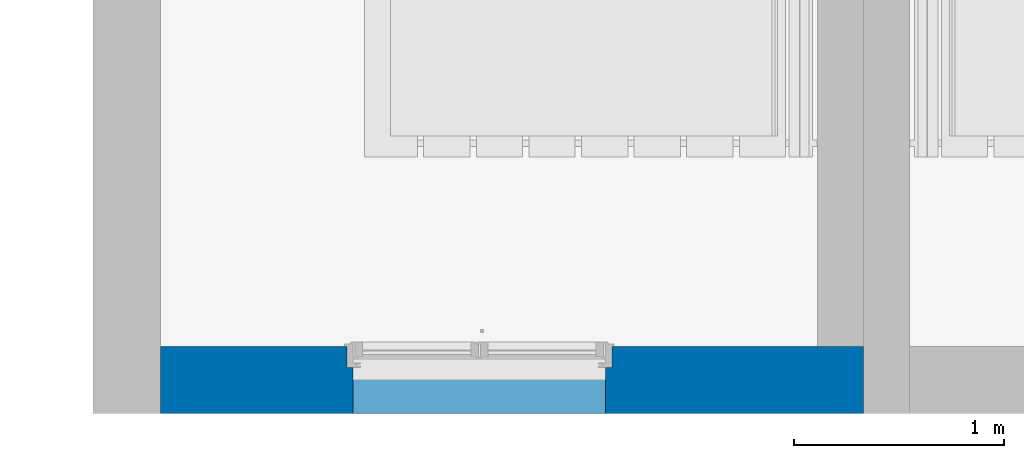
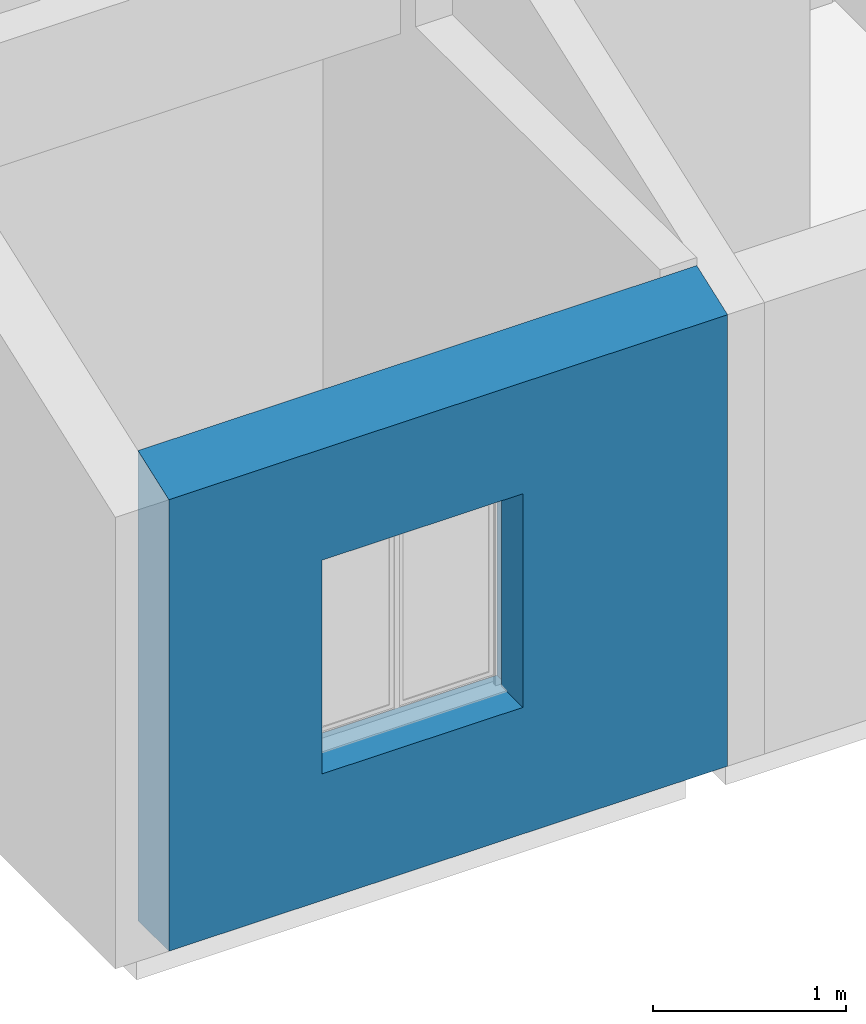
# One storey, part 9 of 61: 1 wall, 1 opening.
"""IFC2X3 building model written with IfcOpenShell, lengths in metres."""

from ifc_helpers import new_model, entity, si_unit, converted_unit, derived_unit, direction, frame, frame_2d, origin, place, context, subcontext, project, spatial, polyline, rectangle, extrude, clip, bounded_halfspace, faceted_brep, material, layer, layer_set, layer_usage, type_object, element, save


model = new_model("IFC2X3")

# Units and contexts
model_context = context("Model", 3, precision=1e-05, world=origin(), true_north=direction((6.12303176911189e-17, 1.0)))
body_context = subcontext(model_context, "Body", "Model", "MODEL_VIEW")
ifc_project = project(units=[si_unit("LENGTHUNIT", "METRE"), si_unit("AREAUNIT", "SQUARE_METRE"), si_unit("VOLUMEUNIT", "CUBIC_METRE"), converted_unit("PLANEANGLEUNIT", "DEGREE", entity("IfcRatioMeasure", 0.0174532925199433), si_unit("PLANEANGLEUNIT", "RADIAN"), dimensions=[0, 0, 0, 0, 0, 0, 0]), si_unit("MASSUNIT", "GRAM", prefix="KILO"), derived_unit("MASSDENSITYUNIT", [(si_unit("MASSUNIT", "GRAM", prefix="KILO"), 1), (si_unit("LENGTHUNIT", "METRE"), -3)]), si_unit("TIMEUNIT", "SECOND"), si_unit("FREQUENCYUNIT", "HERTZ"), si_unit("THERMODYNAMICTEMPERATUREUNIT", "DEGREE_CELSIUS"), derived_unit("THERMALTRANSMITTANCEUNIT", [(si_unit("MASSUNIT", "GRAM", prefix="KILO"), 1), (si_unit("THERMODYNAMICTEMPERATUREUNIT", "KELVIN"), -1), (si_unit("TIMEUNIT", "SECOND"), -3)]), derived_unit("VOLUMETRICFLOWRATEUNIT", [(si_unit("LENGTHUNIT", "METRE"), 3), (si_unit("TIMEUNIT", "SECOND"), -1)]), si_unit("ELECTRICCURRENTUNIT", "AMPERE"), si_unit("ELECTRICVOLTAGEUNIT", "VOLT"), si_unit("POWERUNIT", "WATT"), si_unit("FORCEUNIT", "NEWTON", prefix="KILO"), si_unit("ILLUMINANCEUNIT", "LUX"), si_unit("LUMINOUSFLUXUNIT", "LUMEN"), si_unit("LUMINOUSINTENSITYUNIT", "CANDELA"), derived_unit("USERDEFINED", [(si_unit("MASSUNIT", "GRAM", prefix="KILO"), -1), (si_unit("LENGTHUNIT", "METRE"), -2), (si_unit("TIMEUNIT", "SECOND"), 3), (si_unit("LUMINOUSFLUXUNIT", "LUMEN"), 1)]), derived_unit("LINEARVELOCITYUNIT", [(si_unit("LENGTHUNIT", "METRE"), 1), (si_unit("TIMEUNIT", "SECOND"), -1)]), si_unit("PRESSUREUNIT", "PASCAL"), derived_unit("USERDEFINED", [(si_unit("LENGTHUNIT", "METRE"), -2), (si_unit("MASSUNIT", "GRAM", prefix="KILO"), 1), (si_unit("TIMEUNIT", "SECOND"), -2)])], contexts=[model_context])

# Site, building, storey
site_placement = place(None, origin())
site = spatial("IfcSite", under=ifc_project, at=site_placement, Name="Surface", CompositionType="ELEMENT")
building_placement = place(site_placement, origin())
building = spatial("IfcBuilding", under=site, at=building_placement, CompositionType="ELEMENT")
storey_placement = place(building_placement, frame((0.0, 0.0, 2.82)))
storey = spatial("IfcBuildingStorey", under=building, at=storey_placement, Name="ETAGE", CompositionType="ELEMENT", Elevation=2.82)

# Wall, opening
ifc_material_1 = material(Name="Enduit  gris")
ifc_layer_1 = layer(ifc_material_1, 0.02)
ifc_material_2 = material(Name="Parpaing")
ifc_layer_2 = layer(ifc_material_2, 0.2)
ifc_material_3 = material(Name="Isolant")
ifc_layer_3 = layer(ifc_material_3, 0.1)
ifc_layer_set = layer_set([ifc_layer_1, ifc_layer_2, ifc_layer_3], Name="Mur de base:Ext. Parpaing 20 + Isolant 10 enduit gris")
ifc_layer_usage = layer_usage(ifc_layer_set, "AXIS2", "POSITIVE", -0.16)
wall_type = type_object("IfcWallType", Name="Mur de base:Ext. Parpaing 20 + Isolant 10 enduit gris", PredefinedType="STANDARD", material=ifc_layer_set)
wall_placement = place(storey_placement, frame((65.4946263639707, 77.0477566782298, 0.0)))
wall = element("IfcWallStandardCase", 1, at=wall_placement, inside=storey, type_object=wall_type, material=ifc_layer_usage, Name="Mur de base:Ext. Parpaing 20 + Isolant 10 enduit gris", ObjectType="Mur de base:Ext. Parpaing 20 + Isolant 10 enduit gris", context=body_context, shape_type="Clipping", body=[
    clip(extrude(rectangle(XDim=3.33961659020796, YDim=0.319999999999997, at=frame_2d((1.66980829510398, 1.99840144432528e-15), x_axis=(-1.0, 0.0))), origin(), (0.0, 0.0, 1.0), 2.96926452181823), bounded_halfspace(frame((0.0, -0.159999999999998, 2.85279404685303), z_axis=(0.0, 0.342020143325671, -0.939692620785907), x_axis=(-1.0, 0.0, 0.0)), True, frame((0.0, -0.159999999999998, 2.85279404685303)), polyline([(0.0, 0.0), (3.33961659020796, 0.0), (3.33961659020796, 0.320000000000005), (0.0, 0.319999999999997), (0.0, 0.0)]))),
])
opening_placement = place(wall_placement, frame((0.874999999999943, -0.460000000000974, 0.799999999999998)))
element("IfcOpeningElement", 2, at=opening_placement, cuts=wall, Name="Mur de base:Ext. Parpaing 20 + Isolant 10 enduit gris", ObjectType="Opening", context=body_context, shape_type="Brep", body=[
    faceted_brep([(0.0400000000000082, 0.0, 1.35), (1.24, 0.0, 1.35), (1.24, 0.520000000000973, 1.35), (0.0399999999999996, 0.520000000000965, 1.35), (1.24, 0.0, 0.0), (0.0400000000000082, 0.0, 0.0), (0.0399999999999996, 0.520000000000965, 0.0), (0.00999999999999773, 0.520000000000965, 0.0), (0.00999999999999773, 0.620000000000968, 0.0), (0.0399999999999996, 0.620000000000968, 0.0), (0.0399999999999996, 0.720000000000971, 0.0), (1.24, 0.72000000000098, 0.0), (1.24, 0.620000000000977, 0.0), (1.27, 0.620000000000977, 0.0), (1.27, 0.520000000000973, 0.0), (1.24, 0.520000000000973, 0.0), (0.0399999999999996, 0.720000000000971, 1.35), (1.24, 0.72000000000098, 1.35), (0.00999999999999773, 0.620000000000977, 1.38), (0.0, 0.62000000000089, 1.38000000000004), (0.0, 0.62000000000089, 1.59000000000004), (1.28000000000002, 0.62000000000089, 1.59000000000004), (1.28000000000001, 0.620000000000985, 1.38000000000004), (1.27000000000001, 0.620000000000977, 1.38), (1.24, 0.620000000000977, 1.35), (0.0399999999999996, 0.620000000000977, 1.35), (0.0100000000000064, 0.520000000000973, 1.38000000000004), (1.27, 0.520000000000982, 1.38000000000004), (1.28000000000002, 0.520000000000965, 1.38000000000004), (1.28000000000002, 0.520000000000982, 1.59000000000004), (0.0, 0.520000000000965, 1.59000000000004), (0.0, 0.520000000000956, 1.38000000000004)], [[[0, 1, 2, 3]], [[4, 5, 6, 7, 8, 9, 10, 11, 12, 13, 14, 15]], [[1, 0, 5, 4]], [[5, 0, 3, 6]], [[16, 17, 11, 10]], [[1, 4, 15, 2]], [[9, 8, 18, 19, 20, 21, 22, 23, 13, 12, 24, 25]], [[8, 7, 26, 18]], [[7, 6, 3, 2, 15, 14, 27, 28, 29, 30, 31, 26]], [[13, 23, 27, 14]], [[31, 30, 20, 19]], [[28, 22, 21, 29]], [[31, 19, 18, 26]], [[20, 30, 29, 21]], [[22, 28, 27, 23]], [[11, 17, 24, 12]], [[16, 10, 9, 25]], [[17, 16, 25, 24]]]),
])

save(model, "model.ifc")
